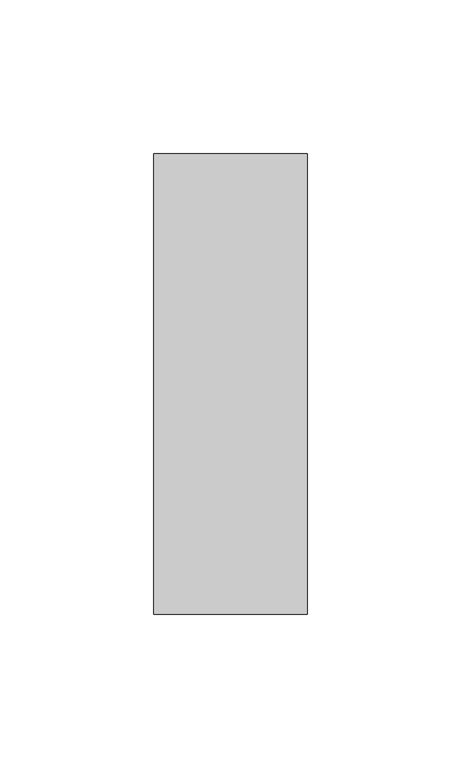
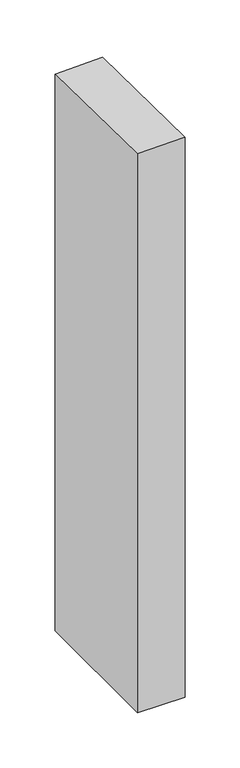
"""IFC4 building model written with IfcOpenShell, lengths in millimetres: member geometry, Прямоугольный импост : 50 x 150 мм."""

from ifc_helpers import new_model, si_unit, origin, place, context, project, spatial, faceted_brep, source, transform, mapped, element, save


def member_5ac75141(model_context):
    return source(origin(), model_context, "Body", "Brep", [
        faceted_brep([(25.0, 75.0, -619.4852593), (25.0, -75.0, -619.4852593), (-25.0, -75.0, -619.4852593), (-25.0, 75.0, -619.4852593), (-25.0, 75.0, -1.7690576), (25.0, 75.0, -0.6453495), (-25.0, -75.0, 0.6453495), (25.0, -75.0, 1.7690576)], [[[0, 1, 2, 3]], [[4, 5, 0, 3]], [[6, 4, 3, 2]], [[7, 6, 2, 1]], [[5, 7, 1, 0]], [[5, 4, 6, 7]]]),
    ])


if __name__ == "__main__":
    model = new_model("IFC4")
    model_context = context("Model", 3, world=origin())
    ifc_project = project(units=[si_unit("LENGTHUNIT", "METRE", prefix="MILLI")], contexts=[model_context])
    site = spatial("IfcSite", under=ifc_project)
    building = spatial("IfcBuilding", under=site)
    placement = place(None, origin())
    member_shape = member_5ac75141(model_context)
    element("IfcMember", 1, ObjectType="Прямоугольный импост : 50 x 150 мм", at=placement, inside=building, context=model_context, shape_type="MappedRepresentation", body=[
        mapped(member_shape, transform((0.0, 0.0, 0.0), x_axis=(1.0, 0.0, 0.0), y_axis=(0.0, 1.0, 0.0), z_axis=(0.0, 0.0, 1.0))),
    ])
    save(model, "model.ifc")
